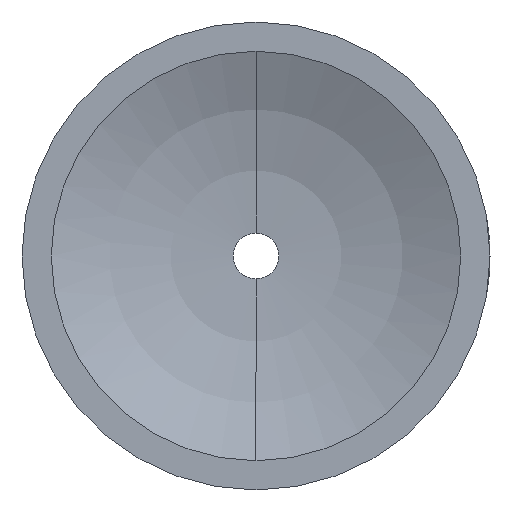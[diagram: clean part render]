
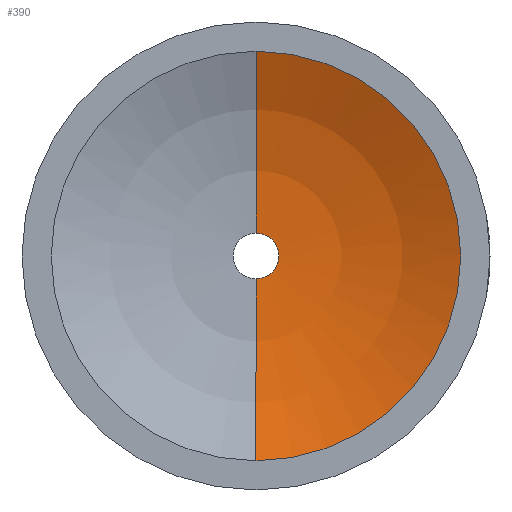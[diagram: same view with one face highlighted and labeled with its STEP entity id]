
A CAD part, left-side view. The second image highlights one B-rep face of the part: STEP entity #390.
In plain terms, the highlighted toroidal (fillet/blend) face has major radius 3.288 mm and minor radius 40 mm.
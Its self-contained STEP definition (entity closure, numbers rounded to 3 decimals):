
#15 = CARTESIAN_POINT ( 'NONE',  ( 4.124, 0., -2.344 ) ) ;
#40 = ORIENTED_EDGE ( 'NONE', *, *, #343, .F. ) ;
#49 = ORIENTED_EDGE ( 'NONE', *, *, #417, .T. ) ;
#54 = ORIENTED_EDGE ( 'NONE', *, *, #412, .T. ) ;
#88 = CARTESIAN_POINT ( 'NONE',  ( 0., 0., 21. ) ) ;
#106 = VERTEX_POINT ( 'NONE', #506 ) ;
#154 = VERTEX_POINT ( 'NONE', #536 ) ;
#199 = CIRCLE ( 'NONE', #415, 21. ) ;
#201 = EDGE_CURVE ( 'NONE', #255, #154, #443, .T. ) ;
#214 = TOROIDAL_SURFACE ( 'NONE', #460, 3.288, 40. ) ;
#255 = VERTEX_POINT ( 'NONE', #15 ) ;
#295 = FACE_OUTER_BOUND ( 'NONE', #414, .T. ) ;
#302 = CARTESIAN_POINT ( 'NONE',  ( -35.865, 0., 3.288 ) ) ;
#306 = DIRECTION ( 'NONE',  ( 0., -1., 0. ) ) ;
#309 = DIRECTION ( 'NONE',  ( 0., 0., -1. ) ) ;
#343 = EDGE_CURVE ( 'NONE', #106, #549, #498, .T. ) ;
#358 = DIRECTION ( 'NONE',  ( -1., 0., 0. ) ) ;
#380 = CARTESIAN_POINT ( 'NONE',  ( -35.865, 0., 0. ) ) ;
#387 = DIRECTION ( 'NONE',  ( 0., 0., 1. ) ) ;
#390 = ADVANCED_FACE ( 'NONE', ( #295 ), #214, .F. ) ;
#412 = EDGE_CURVE ( 'NONE', #106, #255, #481, .T. ) ;
#414 = EDGE_LOOP ( 'NONE', ( #54, #510, #49, #40 ) ) ;
#415 = AXIS2_PLACEMENT_3D ( 'NONE', #490, #508, #511 ) ;
#417 = EDGE_CURVE ( 'NONE', #154, #549, #199, .T. ) ;
#442 = CARTESIAN_POINT ( 'NONE',  ( -35.865, 0., -3.288 ) ) ;
#443 = CIRCLE ( 'NONE', #450, 40. ) ;
#445 = DIRECTION ( 'NONE',  ( 0., 1., 0. ) ) ;
#450 = AXIS2_PLACEMENT_3D ( 'NONE', #442, #445, #451 ) ;
#451 = DIRECTION ( 'NONE',  ( 0., 0., 1. ) ) ;
#460 = AXIS2_PLACEMENT_3D ( 'NONE', #380, #358, #387 ) ;
#474 = CARTESIAN_POINT ( 'NONE',  ( 4.124, 0., 0. ) ) ;
#476 = DIRECTION ( 'NONE',  ( 1., 0., 0. ) ) ;
#478 = DIRECTION ( 'NONE',  ( 0., 0., 1. ) ) ;
#481 = CIRCLE ( 'NONE', #541, 2.344 ) ;
#486 = AXIS2_PLACEMENT_3D ( 'NONE', #302, #306, #309 ) ;
#490 = CARTESIAN_POINT ( 'NONE',  ( 0., 0., 0. ) ) ;
#498 = CIRCLE ( 'NONE', #486, 40. ) ;
#506 = CARTESIAN_POINT ( 'NONE',  ( 4.124, 0., 2.344 ) ) ;
#508 = DIRECTION ( 'NONE',  ( -1., 0., 0. ) ) ;
#510 = ORIENTED_EDGE ( 'NONE', *, *, #201, .T. ) ;
#511 = DIRECTION ( 'NONE',  ( 0., 0., 1. ) ) ;
#536 = CARTESIAN_POINT ( 'NONE',  ( 0., 0., -21. ) ) ;
#541 = AXIS2_PLACEMENT_3D ( 'NONE', #474, #476, #478 ) ;
#549 = VERTEX_POINT ( 'NONE', #88 ) ;
